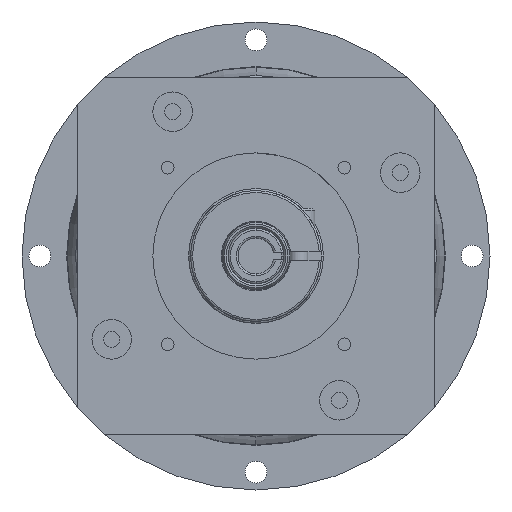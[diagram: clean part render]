
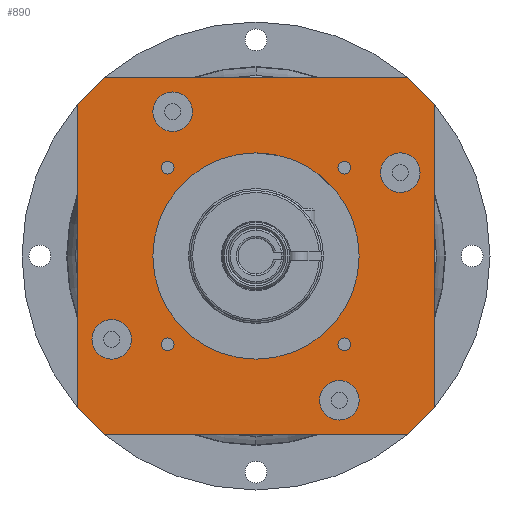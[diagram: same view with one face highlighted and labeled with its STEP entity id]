
A CAD part, left-side view. The second image highlights one B-rep face of the part: STEP entity #890.
In plain terms, the highlighted planar face has unit normal (-1, 0, 0).
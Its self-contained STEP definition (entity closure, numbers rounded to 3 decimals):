
#890=ADVANCED_FACE('',(#1833,#1834,#1835,#1836,#1837,#1838,#1839,#1840,#1841,#1842),#1843,.F.);
#1833=FACE_BOUND('',#2837,.T.);
#1834=FACE_BOUND('',#2838,.T.);
#1835=FACE_BOUND('',#2839,.T.);
#1836=FACE_BOUND('',#2840,.T.);
#1837=FACE_BOUND('',#2841,.T.);
#1838=FACE_BOUND('',#2842,.T.);
#1839=FACE_BOUND('',#2843,.T.);
#1840=FACE_BOUND('',#2844,.T.);
#1841=FACE_BOUND('',#2845,.T.);
#1842=FACE_OUTER_BOUND('',#2846,.T.);
#1843=PLANE('',#2847);
#2837=EDGE_LOOP('',(#5134,#5135));
#2838=EDGE_LOOP('',(#5136,#5137));
#2839=EDGE_LOOP('',(#5138,#5139));
#2840=EDGE_LOOP('',(#5140,#5141));
#2841=EDGE_LOOP('',(#5142,#5143));
#2842=EDGE_LOOP('',(#5144,#5145));
#2843=EDGE_LOOP('',(#5146,#5147));
#2844=EDGE_LOOP('',(#5148,#5149));
#2845=EDGE_LOOP('',(#5150,#5151));
#2846=EDGE_LOOP('',(#5152,#5153,#5154,#5155,#5156,#5157,#5158,#5159));
#2847=AXIS2_PLACEMENT_3D('',#5160,#5161,#5162);
#5134=ORIENTED_EDGE('',*,*,#6301,.T.);
#5135=ORIENTED_EDGE('',*,*,#6321,.T.);
#5136=ORIENTED_EDGE('',*,*,#6291,.T.);
#5137=ORIENTED_EDGE('',*,*,#6327,.T.);
#5138=ORIENTED_EDGE('',*,*,#6281,.T.);
#5139=ORIENTED_EDGE('',*,*,#6334,.T.);
#5140=ORIENTED_EDGE('',*,*,#6271,.T.);
#5141=ORIENTED_EDGE('',*,*,#6341,.T.);
#5142=ORIENTED_EDGE('',*,*,#6261,.T.);
#5143=ORIENTED_EDGE('',*,*,#6348,.T.);
#5144=ORIENTED_EDGE('',*,*,#6256,.T.);
#5145=ORIENTED_EDGE('',*,*,#6352,.T.);
#5146=ORIENTED_EDGE('',*,*,#6251,.T.);
#5147=ORIENTED_EDGE('',*,*,#6356,.T.);
#5148=ORIENTED_EDGE('',*,*,#6246,.T.);
#5149=ORIENTED_EDGE('',*,*,#6360,.T.);
#5150=ORIENTED_EDGE('',*,*,#6241,.T.);
#5151=ORIENTED_EDGE('',*,*,#6364,.T.);
#5152=ORIENTED_EDGE('',*,*,#6375,.T.);
#5153=ORIENTED_EDGE('',*,*,#6413,.T.);
#5154=ORIENTED_EDGE('',*,*,#6402,.T.);
#5155=ORIENTED_EDGE('',*,*,#6417,.T.);
#5156=ORIENTED_EDGE('',*,*,#6384,.T.);
#5157=ORIENTED_EDGE('',*,*,#6405,.T.);
#5158=ORIENTED_EDGE('',*,*,#6393,.T.);
#5159=ORIENTED_EDGE('',*,*,#6409,.T.);
#5160=CARTESIAN_POINT('',(-42.05,0.0,0.0));
#5161=DIRECTION('',(1.0,0.0,0.0));
#5162=DIRECTION('',(0.0,1.0,0.0));
#6241=EDGE_CURVE('',#7522,#7526,#7528,.T.);
#6246=EDGE_CURVE('',#7531,#7535,#7537,.T.);
#6251=EDGE_CURVE('',#7540,#7544,#7546,.T.);
#6256=EDGE_CURVE('',#7549,#7553,#7555,.T.);
#6261=EDGE_CURVE('',#7558,#7562,#7564,.T.);
#6271=EDGE_CURVE('',#7576,#7580,#7582,.T.);
#6281=EDGE_CURVE('',#7594,#7598,#7600,.T.);
#6291=EDGE_CURVE('',#7612,#7616,#7618,.T.);
#6301=EDGE_CURVE('',#7630,#7634,#7636,.T.);
#6321=EDGE_CURVE('',#7634,#7630,#7665,.T.);
#6327=EDGE_CURVE('',#7616,#7612,#7671,.T.);
#6334=EDGE_CURVE('',#7598,#7594,#7678,.T.);
#6341=EDGE_CURVE('',#7580,#7576,#7685,.T.);
#6348=EDGE_CURVE('',#7562,#7558,#7692,.T.);
#6352=EDGE_CURVE('',#7553,#7549,#7696,.T.);
#6356=EDGE_CURVE('',#7544,#7540,#7700,.T.);
#6360=EDGE_CURVE('',#7535,#7531,#7704,.T.);
#6364=EDGE_CURVE('',#7526,#7522,#7708,.T.);
#6375=EDGE_CURVE('',#7713,#7725,#7727,.T.);
#6384=EDGE_CURVE('',#7730,#7742,#7744,.T.);
#6393=EDGE_CURVE('',#7747,#7759,#7761,.T.);
#6402=EDGE_CURVE('',#7764,#7776,#7778,.T.);
#6405=EDGE_CURVE('',#7742,#7747,#7781,.T.);
#6409=EDGE_CURVE('',#7759,#7713,#7785,.T.);
#6413=EDGE_CURVE('',#7725,#7764,#7789,.T.);
#6417=EDGE_CURVE('',#7776,#7730,#7793,.T.);
#7522=VERTEX_POINT('',#9521);
#7526=VERTEX_POINT('',#9526);
#7528=CIRCLE('',#9529,1.621);
#7531=VERTEX_POINT('',#9532);
#7535=VERTEX_POINT('',#9537);
#7537=CIRCLE('',#9540,1.621);
#7540=VERTEX_POINT('',#9543);
#7544=VERTEX_POINT('',#9548);
#7546=CIRCLE('',#9551,1.621);
#7549=VERTEX_POINT('',#9554);
#7553=VERTEX_POINT('',#9559);
#7555=CIRCLE('',#9562,1.621);
#7558=VERTEX_POINT('',#9565);
#7562=VERTEX_POINT('',#9570);
#7564=CIRCLE('',#9573,5.0);
#7576=VERTEX_POINT('',#9587);
#7580=VERTEX_POINT('',#9592);
#7582=CIRCLE('',#9595,5.0);
#7594=VERTEX_POINT('',#9609);
#7598=VERTEX_POINT('',#9614);
#7600=CIRCLE('',#9617,5.0);
#7612=VERTEX_POINT('',#9631);
#7616=VERTEX_POINT('',#9636);
#7618=CIRCLE('',#9639,5.0);
#7630=VERTEX_POINT('',#9653);
#7634=VERTEX_POINT('',#9658);
#7636=CIRCLE('',#9661,26.0);
#7665=CIRCLE('',#9761,26.0);
#7671=CIRCLE('',#9767,5.0);
#7678=CIRCLE('',#9774,5.0);
#7685=CIRCLE('',#9781,5.0);
#7692=CIRCLE('',#9788,5.0);
#7696=CIRCLE('',#9792,1.621);
#7700=CIRCLE('',#9796,1.621);
#7704=CIRCLE('',#9800,1.621);
#7708=CIRCLE('',#9804,1.621);
#7713=VERTEX_POINT('',#9809);
#7725=VERTEX_POINT('',#9917);
#7727=LINE('',#9920,#9921);
#7730=VERTEX_POINT('',#9924);
#7742=VERTEX_POINT('',#10032);
#7744=LINE('',#10035,#10036);
#7747=VERTEX_POINT('',#10039);
#7759=VERTEX_POINT('',#10147);
#7761=LINE('',#10150,#10151);
#7764=VERTEX_POINT('',#10154);
#7776=VERTEX_POINT('',#10262);
#7778=LINE('',#10265,#10266);
#7781=CIRCLE('',#10269,59.0);
#7785=CIRCLE('',#10273,59.0);
#7789=CIRCLE('',#10277,59.0);
#7793=CIRCLE('',#10281,59.0);
#9521=CARTESIAN_POINT('',(-42.05,-20.653,-22.274));
#9526=CARTESIAN_POINT('',(-42.05,-23.895,-22.274));
#9529=AXIS2_PLACEMENT_3D('',#11778,#11779,#11780);
#9532=CARTESIAN_POINT('',(-42.05,-20.653,22.274));
#9537=CARTESIAN_POINT('',(-42.05,-23.895,22.274));
#9540=AXIS2_PLACEMENT_3D('',#11786,#11787,#11788);
#9543=CARTESIAN_POINT('',(-42.05,23.895,22.274));
#9548=CARTESIAN_POINT('',(-42.05,20.653,22.274));
#9551=AXIS2_PLACEMENT_3D('',#11794,#11795,#11796);
#9554=CARTESIAN_POINT('',(-42.05,23.895,-22.274));
#9559=CARTESIAN_POINT('',(-42.05,20.653,-22.274));
#9562=AXIS2_PLACEMENT_3D('',#11802,#11803,#11804);
#9565=CARTESIAN_POINT('',(-42.05,26.0,36.373));
#9570=CARTESIAN_POINT('',(-42.05,16.0,36.373));
#9573=AXIS2_PLACEMENT_3D('',#11810,#11811,#11812);
#9587=CARTESIAN_POINT('',(-42.05,41.373,-21.0));
#9592=CARTESIAN_POINT('',(-42.05,31.373,-21.0));
#9595=AXIS2_PLACEMENT_3D('',#11826,#11827,#11828);
#9609=CARTESIAN_POINT('',(-42.05,-16.0,-36.373));
#9614=CARTESIAN_POINT('',(-42.05,-26.0,-36.373));
#9617=AXIS2_PLACEMENT_3D('',#11842,#11843,#11844);
#9631=CARTESIAN_POINT('',(-42.05,-31.373,21.0));
#9636=CARTESIAN_POINT('',(-42.05,-41.373,21.0));
#9639=AXIS2_PLACEMENT_3D('',#11858,#11859,#11860);
#9653=CARTESIAN_POINT('',(-42.05,26.0,0.0));
#9658=CARTESIAN_POINT('',(-42.05,-26.0,0.));
#9661=AXIS2_PLACEMENT_3D('',#11874,#11875,#11876);
#9761=AXIS2_PLACEMENT_3D('',#11899,#11900,#11901);
#9767=AXIS2_PLACEMENT_3D('',#11911,#11912,#11913);
#9774=AXIS2_PLACEMENT_3D('',#11923,#11924,#11925);
#9781=AXIS2_PLACEMENT_3D('',#11935,#11936,#11937);
#9788=AXIS2_PLACEMENT_3D('',#11947,#11948,#11949);
#9792=AXIS2_PLACEMENT_3D('',#11953,#11954,#11955);
#9796=AXIS2_PLACEMENT_3D('',#11959,#11960,#11961);
#9800=AXIS2_PLACEMENT_3D('',#11965,#11966,#11967);
#9804=AXIS2_PLACEMENT_3D('',#11971,#11972,#11973);
#9809=CARTESIAN_POINT('',(-42.05,-45.0,-38.158));
#9917=CARTESIAN_POINT('',(-42.05,-45.0,38.158));
#9920=CARTESIAN_POINT('',(-42.05,-45.0,0.0));
#9921=VECTOR('',#11982,1.0);
#9924=CARTESIAN_POINT('',(-42.05,45.0,38.158));
#10032=CARTESIAN_POINT('',(-42.05,45.0,-38.158));
#10035=CARTESIAN_POINT('',(-42.05,45.0,0.0));
#10036=VECTOR('',#11988,1.0);
#10039=CARTESIAN_POINT('',(-42.05,38.158,-45.0));
#10147=CARTESIAN_POINT('',(-42.05,-38.158,-45.0));
#10150=CARTESIAN_POINT('',(-42.05,0.0,-45.0));
#10151=VECTOR('',#11994,1.0);
#10154=CARTESIAN_POINT('',(-42.05,-38.158,45.0));
#10262=CARTESIAN_POINT('',(-42.05,38.158,45.0));
#10265=CARTESIAN_POINT('',(-42.05,0.0,45.0));
#10266=VECTOR('',#12000,1.0);
#10269=AXIS2_PLACEMENT_3D('',#12004,#12005,#12006);
#10273=AXIS2_PLACEMENT_3D('',#12010,#12011,#12012);
#10277=AXIS2_PLACEMENT_3D('',#12019,#12020,#12021);
#10281=AXIS2_PLACEMENT_3D('',#12025,#12026,#12027);
#11778=CARTESIAN_POINT('',(-42.05,-22.274,-22.274));
#11779=DIRECTION('',(1.0,0.0,0.0));
#11780=DIRECTION('',(0.0,1.0,0.0));
#11786=CARTESIAN_POINT('',(-42.05,-22.274,22.274));
#11787=DIRECTION('',(1.0,0.0,0.0));
#11788=DIRECTION('',(0.0,1.0,0.0));
#11794=CARTESIAN_POINT('',(-42.05,22.274,22.274));
#11795=DIRECTION('',(1.0,0.0,0.0));
#11796=DIRECTION('',(0.0,1.0,0.0));
#11802=CARTESIAN_POINT('',(-42.05,22.274,-22.274));
#11803=DIRECTION('',(1.0,0.0,0.0));
#11804=DIRECTION('',(0.0,1.0,0.0));
#11810=CARTESIAN_POINT('',(-42.05,21.0,36.373));
#11811=DIRECTION('',(1.0,0.0,0.0));
#11812=DIRECTION('',(0.0,1.0,0.0));
#11826=CARTESIAN_POINT('',(-42.05,36.373,-21.0));
#11827=DIRECTION('',(1.0,0.0,0.0));
#11828=DIRECTION('',(0.0,1.0,0.0));
#11842=CARTESIAN_POINT('',(-42.05,-21.0,-36.373));
#11843=DIRECTION('',(1.0,0.0,0.0));
#11844=DIRECTION('',(0.0,1.0,0.0));
#11858=CARTESIAN_POINT('',(-42.05,-36.373,21.0));
#11859=DIRECTION('',(1.0,0.0,0.0));
#11860=DIRECTION('',(0.0,1.0,0.0));
#11874=CARTESIAN_POINT('',(-42.05,0.0,0.0));
#11875=DIRECTION('',(1.0,0.0,0.0));
#11876=DIRECTION('',(0.0,1.0,0.0));
#11899=CARTESIAN_POINT('',(-42.05,0.0,0.0));
#11900=DIRECTION('',(1.0,0.0,0.0));
#11901=DIRECTION('',(0.0,1.0,0.0));
#11911=CARTESIAN_POINT('',(-42.05,-36.373,21.0));
#11912=DIRECTION('',(1.0,0.0,0.0));
#11913=DIRECTION('',(0.0,1.0,0.0));
#11923=CARTESIAN_POINT('',(-42.05,-21.0,-36.373));
#11924=DIRECTION('',(1.0,0.0,0.0));
#11925=DIRECTION('',(0.0,1.0,0.0));
#11935=CARTESIAN_POINT('',(-42.05,36.373,-21.0));
#11936=DIRECTION('',(1.0,0.0,0.0));
#11937=DIRECTION('',(0.0,1.0,0.0));
#11947=CARTESIAN_POINT('',(-42.05,21.0,36.373));
#11948=DIRECTION('',(1.0,0.0,0.0));
#11949=DIRECTION('',(0.0,1.0,0.0));
#11953=CARTESIAN_POINT('',(-42.05,22.274,-22.274));
#11954=DIRECTION('',(1.0,0.0,0.0));
#11955=DIRECTION('',(0.0,1.0,0.0));
#11959=CARTESIAN_POINT('',(-42.05,22.274,22.274));
#11960=DIRECTION('',(1.0,0.0,0.0));
#11961=DIRECTION('',(0.0,1.0,0.0));
#11965=CARTESIAN_POINT('',(-42.05,-22.274,22.274));
#11966=DIRECTION('',(1.0,0.0,0.0));
#11967=DIRECTION('',(0.0,1.0,0.0));
#11971=CARTESIAN_POINT('',(-42.05,-22.274,-22.274));
#11972=DIRECTION('',(1.0,0.0,0.0));
#11973=DIRECTION('',(0.0,1.0,0.0));
#11982=DIRECTION('',(0.0,0.0,1.0));
#11988=DIRECTION('',(0.0,0.0,-1.0));
#11994=DIRECTION('',(0.0,-1.0,0.0));
#12000=DIRECTION('',(0.0,1.0,0.0));
#12004=CARTESIAN_POINT('',(-42.05,0.0,0.0));
#12005=DIRECTION('',(-1.0,0.0,0.0));
#12006=DIRECTION('',(0.0,1.0,0.0));
#12010=CARTESIAN_POINT('',(-42.05,0.0,0.0));
#12011=DIRECTION('',(-1.0,0.0,0.0));
#12012=DIRECTION('',(0.0,1.0,0.0));
#12019=CARTESIAN_POINT('',(-42.05,0.0,0.0));
#12020=DIRECTION('',(-1.0,0.0,0.0));
#12021=DIRECTION('',(0.0,1.0,0.0));
#12025=CARTESIAN_POINT('',(-42.05,0.0,0.0));
#12026=DIRECTION('',(-1.0,0.0,0.0));
#12027=DIRECTION('',(0.0,1.0,0.0));
